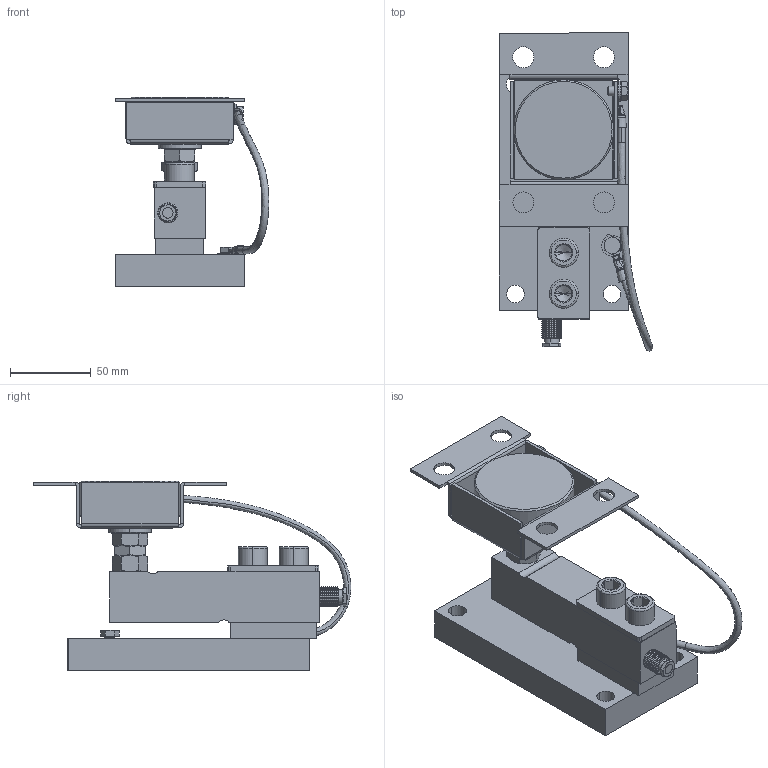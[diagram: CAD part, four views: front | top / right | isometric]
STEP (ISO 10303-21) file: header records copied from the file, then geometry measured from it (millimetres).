
FILE_DESCRIPTION((''),'1');
FILE_NAME('LMLBA_zinc-plated.step','2020-05-25T10:39:24',(''),(''),'','','');
FILE_SCHEMA(('AUTOMOTIVE_DESIGN { 1 0 10303 214 1 1 1 1 }'));
Products named in the file (22): LMLBA zinc-plated; LMLBA screw 01; LMLBA screw 02; LMLBA part 03; LMLBA part 04; LMLBA part 06; LMLBA part 07; LMLBA cable 01; LMLBA part 08; LMLBA part 09; LMLBA nut 01; LMLBA part 10; LMLBA base 01; LMLBA screw 03; LMLBA nut 03; LMLBA plate 01; LMLBA load cell 01; LMLBA part 11; LMLBA screw 04; LMLBA part 12
Assembly tree (25 placements, depth 4):
  LMLBA zinc-plated
    LMLBA zinc-plated
    LMLBA screw 01  x2
    LMLBA screw 02
    LMLBA part 07
      LMLBA part 03
        LMLBA part 04
        LMLBA part 06
      LMLBA cable 01
      LMLBA part 03
        LMLBA part 04
        LMLBA part 06
    LMLBA part 08
    LMLBA part 09
      LMLBA nut 01
      LMLBA part 10
      LMLBA base 01
    LMLBA screw 03  x2
    LMLBA nut 03
    LMLBA plate 01
    LMLBA load cell 01
    LMLBA part 11
    LMLBA screw 04
    LMLBA part 12
Bounding box: 95.37 x 197.08 x 117.52 mm (x, y, z)
Volume: 498714.3 mm3; surface area: 146127.6 mm2
Topology: 21 solids, 27 shells, 842 faces, 2078 edges, 1289 vertices
Faces by surface type: cylinder 264, plane 262, cone 178, bspline 72, torus 66
Entity records: 25321 total; most frequent: CARTESIAN_POINT 9582, DIRECTION 3320, ORIENTED_EDGE 3068, EDGE_CURVE 1550, AXIS2_PLACEMENT_3D 1348, VERTEX_POINT 961, EDGE_LOOP 717, CIRCLE 698
